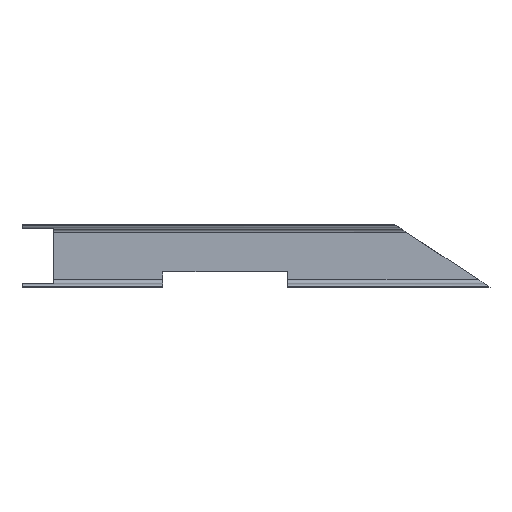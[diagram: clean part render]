
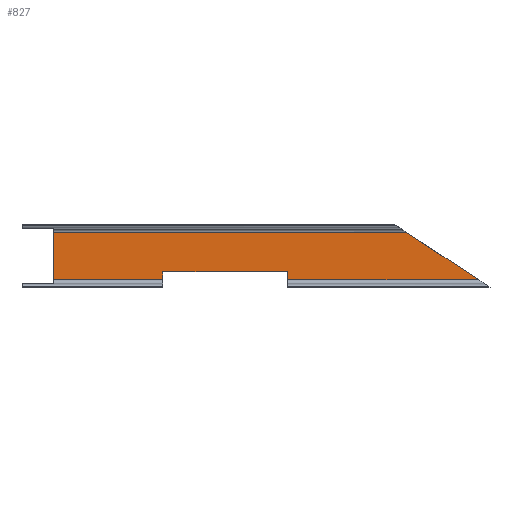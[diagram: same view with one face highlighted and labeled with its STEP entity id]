
A CAD part, front view. The second image highlights one B-rep face of the part: STEP entity #827.
In plain terms, the highlighted planar face has unit normal (0, -1, 0).
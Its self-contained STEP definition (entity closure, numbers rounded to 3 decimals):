
#72 = PLANE('',#73);
#73 = AXIS2_PLACEMENT_3D('',#74,#75,#76);
#74 = CARTESIAN_POINT('',(1500.,6000.,-200.));
#75 = DIRECTION('',(0.549,0.,0.836));
#76 = DIRECTION('',(0.,-1.,0.));
#126 = PLANE('',#127);
#127 = AXIS2_PLACEMENT_3D('',#128,#129,#130);
#128 = CARTESIAN_POINT('',(851.257,5960.,-150.));
#129 = DIRECTION('',(-1.,0.,0.));
#130 = DIRECTION('',(0.,0.,-1.));
#216 = EDGE_CURVE('',#217,#219,#221,.T.);
#217 = VERTEX_POINT('',#218);
#218 = CARTESIAN_POINT('',(851.257,6029.,-175.563));
#219 = VERTEX_POINT('',#220);
#220 = CARTESIAN_POINT('',(851.257,6029.,-150.));
#221 = SURFACE_CURVE('',#222,(#226,#233),.PCURVE_S1.);
#222 = LINE('',#223,#224);
#223 = CARTESIAN_POINT('',(851.257,6029.,-162.782));
#224 = VECTOR('',#225,1.);
#225 = DIRECTION('',(0.,0.,1.));
#226 = PCURVE('',#126,#227);
#227 = DEFINITIONAL_REPRESENTATION('',(#228),#232);
#228 = LINE('',#229,#230);
#229 = CARTESIAN_POINT('',(12.782,-69.));
#230 = VECTOR('',#231,1.);
#231 = DIRECTION('',(-1.,0.));
#232 = ( GEOMETRIC_REPRESENTATION_CONTEXT(2) 
PARAMETRIC_REPRESENTATION_CONTEXT() REPRESENTATION_CONTEXT('2D SPACE',''
  ) );
#233 = PCURVE('',#234,#239);
#234 = PLANE('',#235);
#235 = AXIS2_PLACEMENT_3D('',#236,#237,#238);
#236 = CARTESIAN_POINT('',(1501.524,6029.,
    -175.563));
#237 = DIRECTION('',(0.,1.,0.));
#238 = DIRECTION('',(0.,0.,1.));
#239 = DEFINITIONAL_REPRESENTATION('',(#240),#244);
#240 = LINE('',#241,#242);
#241 = CARTESIAN_POINT('',(12.782,-650.267));
#242 = VECTOR('',#243,1.);
#243 = DIRECTION('',(1.,0.));
#244 = ( GEOMETRIC_REPRESENTATION_CONTEXT(2) 
PARAMETRIC_REPRESENTATION_CONTEXT() REPRESENTATION_CONTEXT('2D SPACE',''
  ) );
#262 = PLANE('',#263);
#263 = AXIS2_PLACEMENT_3D('',#264,#265,#266);
#264 = CARTESIAN_POINT('',(451.257,5960.,-150.));
#265 = DIRECTION('',(0.,0.,-1.));
#266 = DIRECTION('',(1.,0.,0.));
#371 = CYLINDRICAL_SURFACE('',#372,11.5);
#372 = AXIS2_PLACEMENT_3D('',#373,#374,#375);
#373 = CARTESIAN_POINT('',(1501.524,6017.5,
    -175.563));
#374 = DIRECTION('',(1.,0.,0.));
#375 = DIRECTION('',(0.,1.,0.));
#453 = PLANE('',#454);
#454 = AXIS2_PLACEMENT_3D('',#455,#456,#457);
#455 = CARTESIAN_POINT('',(100.,6000.,-202.5));
#456 = DIRECTION('',(-1.,0.,0.));
#457 = DIRECTION('',(0.,1.,0.));
#509 = PLANE('',#510);
#510 = AXIS2_PLACEMENT_3D('',#511,#512,#513);
#511 = CARTESIAN_POINT('',(451.257,5960.,-250.));
#512 = DIRECTION('',(1.,0.,0.));
#513 = DIRECTION('',(0.,0.,1.));
#664 = VERTEX_POINT('',#665);
#665 = CARTESIAN_POINT('',(1232.488,6029.,
    -24.437));
#680 = CYLINDRICAL_SURFACE('',#681,11.5);
#681 = AXIS2_PLACEMENT_3D('',#682,#683,#684);
#682 = CARTESIAN_POINT('',(1501.524,6017.5,
    -24.437));
#683 = DIRECTION('',(1.,0.,0.));
#684 = DIRECTION('',(0.,1.,0.));
#698 = EDGE_CURVE('',#664,#699,#701,.T.);
#699 = VERTEX_POINT('',#700);
#700 = CARTESIAN_POINT('',(1462.765,6029.,
    -175.563));
#701 = SURFACE_CURVE('',#702,(#706,#713),.PCURVE_S1.);
#702 = LINE('',#703,#704);
#703 = CARTESIAN_POINT('',(1494.928,6029.,
    -196.671));
#704 = VECTOR('',#705,1.);
#705 = DIRECTION('',(0.836,0.,-0.549));
#706 = PCURVE('',#72,#707);
#707 = DEFINITIONAL_REPRESENTATION('',(#708),#712);
#708 = LINE('',#709,#710);
#709 = CARTESIAN_POINT('',(-29.,-6.067));
#710 = VECTOR('',#711,1.);
#711 = DIRECTION('',(0.,1.));
#712 = ( GEOMETRIC_REPRESENTATION_CONTEXT(2) 
PARAMETRIC_REPRESENTATION_CONTEXT() REPRESENTATION_CONTEXT('2D SPACE',''
  ) );
#713 = PCURVE('',#234,#714);
#714 = DEFINITIONAL_REPRESENTATION('',(#715),#719);
#715 = LINE('',#716,#717);
#716 = CARTESIAN_POINT('',(-21.108,-6.596));
#717 = VECTOR('',#718,1.);
#718 = DIRECTION('',(-0.549,0.836));
#719 = ( GEOMETRIC_REPRESENTATION_CONTEXT(2) 
PARAMETRIC_REPRESENTATION_CONTEXT() REPRESENTATION_CONTEXT('2D SPACE',''
  ) );
#827 = ADVANCED_FACE('',(#828),#234,.F.);
#828 = FACE_BOUND('',#829,.F.);
#829 = EDGE_LOOP('',(#830,#852,#853,#873,#874,#897,#920,#947));
#830 = ORIENTED_EDGE('',*,*,#831,.F.);
#831 = EDGE_CURVE('',#664,#832,#834,.T.);
#832 = VERTEX_POINT('',#833);
#833 = CARTESIAN_POINT('',(100.,6029.,-24.437));
#834 = SURFACE_CURVE('',#835,(#839,#846),.PCURVE_S1.);
#835 = LINE('',#836,#837);
#836 = CARTESIAN_POINT('',(1501.524,6029.,
    -24.437));
#837 = VECTOR('',#838,1.);
#838 = DIRECTION('',(-1.,0.,0.));
#839 = PCURVE('',#234,#840);
#840 = DEFINITIONAL_REPRESENTATION('',(#841),#845);
#841 = LINE('',#842,#843);
#842 = CARTESIAN_POINT('',(151.127,0.));
#843 = VECTOR('',#844,1.);
#844 = DIRECTION('',(0.,-1.));
#845 = ( GEOMETRIC_REPRESENTATION_CONTEXT(2) 
PARAMETRIC_REPRESENTATION_CONTEXT() REPRESENTATION_CONTEXT('2D SPACE',''
  ) );
#846 = PCURVE('',#680,#847);
#847 = DEFINITIONAL_REPRESENTATION('',(#848),#851);
#848 = B_SPLINE_CURVE_WITH_KNOTS('',1,(#849,#850),.UNSPECIFIED.,.F.,.F.,
  (2,2),(269.035,1401.524),.PIECEWISE_BEZIER_KNOTS.);
#849 = CARTESIAN_POINT('',(0.,-269.035));
#850 = CARTESIAN_POINT('',(0.,-1401.524));
#851 = ( GEOMETRIC_REPRESENTATION_CONTEXT(2) 
PARAMETRIC_REPRESENTATION_CONTEXT() REPRESENTATION_CONTEXT('2D SPACE',''
  ) );
#852 = ORIENTED_EDGE('',*,*,#698,.T.);
#853 = ORIENTED_EDGE('',*,*,#854,.T.);
#854 = EDGE_CURVE('',#699,#217,#855,.T.);
#855 = SURFACE_CURVE('',#856,(#860,#867),.PCURVE_S1.);
#856 = LINE('',#857,#858);
#857 = CARTESIAN_POINT('',(1501.524,6029.,
    -175.563));
#858 = VECTOR('',#859,1.);
#859 = DIRECTION('',(-1.,0.,0.));
#860 = PCURVE('',#234,#861);
#861 = DEFINITIONAL_REPRESENTATION('',(#862),#866);
#862 = LINE('',#863,#864);
#863 = CARTESIAN_POINT('',(0.,0.));
#864 = VECTOR('',#865,1.);
#865 = DIRECTION('',(0.,-1.));
#866 = ( GEOMETRIC_REPRESENTATION_CONTEXT(2) 
PARAMETRIC_REPRESENTATION_CONTEXT() REPRESENTATION_CONTEXT('2D SPACE',''
  ) );
#867 = PCURVE('',#371,#868);
#868 = DEFINITIONAL_REPRESENTATION('',(#869),#872);
#869 = B_SPLINE_CURVE_WITH_KNOTS('',1,(#870,#871),.UNSPECIFIED.,.F.,.F.,
  (2,2),(38.759,650.267),.PIECEWISE_BEZIER_KNOTS.);
#870 = CARTESIAN_POINT('',(6.283,-38.759));
#871 = CARTESIAN_POINT('',(6.283,-650.267));
#872 = ( GEOMETRIC_REPRESENTATION_CONTEXT(2) 
PARAMETRIC_REPRESENTATION_CONTEXT() REPRESENTATION_CONTEXT('2D SPACE',''
  ) );
#873 = ORIENTED_EDGE('',*,*,#216,.T.);
#874 = ORIENTED_EDGE('',*,*,#875,.T.);
#875 = EDGE_CURVE('',#219,#876,#878,.T.);
#876 = VERTEX_POINT('',#877);
#877 = CARTESIAN_POINT('',(451.257,6029.,-150.));
#878 = SURFACE_CURVE('',#879,(#883,#890),.PCURVE_S1.);
#879 = LINE('',#880,#881);
#880 = CARTESIAN_POINT('',(976.39,6029.,-150.));
#881 = VECTOR('',#882,1.);
#882 = DIRECTION('',(-1.,0.,0.));
#883 = PCURVE('',#234,#884);
#884 = DEFINITIONAL_REPRESENTATION('',(#885),#889);
#885 = LINE('',#886,#887);
#886 = CARTESIAN_POINT('',(25.563,-525.133));
#887 = VECTOR('',#888,1.);
#888 = DIRECTION('',(0.,-1.));
#889 = ( GEOMETRIC_REPRESENTATION_CONTEXT(2) 
PARAMETRIC_REPRESENTATION_CONTEXT() REPRESENTATION_CONTEXT('2D SPACE',''
  ) );
#890 = PCURVE('',#262,#891);
#891 = DEFINITIONAL_REPRESENTATION('',(#892),#896);
#892 = LINE('',#893,#894);
#893 = CARTESIAN_POINT('',(525.133,-69.));
#894 = VECTOR('',#895,1.);
#895 = DIRECTION('',(-1.,0.));
#896 = ( GEOMETRIC_REPRESENTATION_CONTEXT(2) 
PARAMETRIC_REPRESENTATION_CONTEXT() REPRESENTATION_CONTEXT('2D SPACE',''
  ) );
#897 = ORIENTED_EDGE('',*,*,#898,.T.);
#898 = EDGE_CURVE('',#876,#899,#901,.T.);
#899 = VERTEX_POINT('',#900);
#900 = CARTESIAN_POINT('',(451.257,6029.,-175.563));
#901 = SURFACE_CURVE('',#902,(#906,#913),.PCURVE_S1.);
#902 = LINE('',#903,#904);
#903 = CARTESIAN_POINT('',(451.257,6029.,-212.782));
#904 = VECTOR('',#905,1.);
#905 = DIRECTION('',(0.,0.,-1.));
#906 = PCURVE('',#234,#907);
#907 = DEFINITIONAL_REPRESENTATION('',(#908),#912);
#908 = LINE('',#909,#910);
#909 = CARTESIAN_POINT('',(-37.218,-1050.267));
#910 = VECTOR('',#911,1.);
#911 = DIRECTION('',(-1.,0.));
#912 = ( GEOMETRIC_REPRESENTATION_CONTEXT(2) 
PARAMETRIC_REPRESENTATION_CONTEXT() REPRESENTATION_CONTEXT('2D SPACE',''
  ) );
#913 = PCURVE('',#509,#914);
#914 = DEFINITIONAL_REPRESENTATION('',(#915),#919);
#915 = LINE('',#916,#917);
#916 = CARTESIAN_POINT('',(37.218,-69.));
#917 = VECTOR('',#918,1.);
#918 = DIRECTION('',(-1.,0.));
#919 = ( GEOMETRIC_REPRESENTATION_CONTEXT(2) 
PARAMETRIC_REPRESENTATION_CONTEXT() REPRESENTATION_CONTEXT('2D SPACE',''
  ) );
#920 = ORIENTED_EDGE('',*,*,#921,.T.);
#921 = EDGE_CURVE('',#899,#922,#924,.T.);
#922 = VERTEX_POINT('',#923);
#923 = CARTESIAN_POINT('',(100.,6029.,-175.563));
#924 = SURFACE_CURVE('',#925,(#929,#936),.PCURVE_S1.);
#925 = LINE('',#926,#927);
#926 = CARTESIAN_POINT('',(1501.524,6029.,
    -175.563));
#927 = VECTOR('',#928,1.);
#928 = DIRECTION('',(-1.,0.,0.));
#929 = PCURVE('',#234,#930);
#930 = DEFINITIONAL_REPRESENTATION('',(#931),#935);
#931 = LINE('',#932,#933);
#932 = CARTESIAN_POINT('',(0.,0.));
#933 = VECTOR('',#934,1.);
#934 = DIRECTION('',(0.,-1.));
#935 = ( GEOMETRIC_REPRESENTATION_CONTEXT(2) 
PARAMETRIC_REPRESENTATION_CONTEXT() REPRESENTATION_CONTEXT('2D SPACE',''
  ) );
#936 = PCURVE('',#937,#942);
#937 = CYLINDRICAL_SURFACE('',#938,11.5);
#938 = AXIS2_PLACEMENT_3D('',#939,#940,#941);
#939 = CARTESIAN_POINT('',(1501.524,6017.5,
    -175.563));
#940 = DIRECTION('',(1.,0.,0.));
#941 = DIRECTION('',(0.,1.,0.));
#942 = DEFINITIONAL_REPRESENTATION('',(#943),#946);
#943 = B_SPLINE_CURVE_WITH_KNOTS('',1,(#944,#945),.UNSPECIFIED.,.F.,.F.,
  (2,2),(1050.267,1401.524),
  .PIECEWISE_BEZIER_KNOTS.);
#944 = CARTESIAN_POINT('',(6.283,-1050.267));
#945 = CARTESIAN_POINT('',(6.283,-1401.524));
#946 = ( GEOMETRIC_REPRESENTATION_CONTEXT(2) 
PARAMETRIC_REPRESENTATION_CONTEXT() REPRESENTATION_CONTEXT('2D SPACE',''
  ) );
#947 = ORIENTED_EDGE('',*,*,#948,.T.);
#948 = EDGE_CURVE('',#922,#832,#949,.T.);
#949 = SURFACE_CURVE('',#950,(#954,#961),.PCURVE_S1.);
#950 = LINE('',#951,#952);
#951 = CARTESIAN_POINT('',(100.,6029.,-189.032));
#952 = VECTOR('',#953,1.);
#953 = DIRECTION('',(0.,0.,1.));
#954 = PCURVE('',#234,#955);
#955 = DEFINITIONAL_REPRESENTATION('',(#956),#960);
#956 = LINE('',#957,#958);
#957 = CARTESIAN_POINT('',(-13.468,-1401.524));
#958 = VECTOR('',#959,1.);
#959 = DIRECTION('',(1.,0.));
#960 = ( GEOMETRIC_REPRESENTATION_CONTEXT(2) 
PARAMETRIC_REPRESENTATION_CONTEXT() REPRESENTATION_CONTEXT('2D SPACE',''
  ) );
#961 = PCURVE('',#453,#962);
#962 = DEFINITIONAL_REPRESENTATION('',(#963),#967);
#963 = LINE('',#964,#965);
#964 = CARTESIAN_POINT('',(29.,-13.468));
#965 = VECTOR('',#966,1.);
#966 = DIRECTION('',(0.,-1.));
#967 = ( GEOMETRIC_REPRESENTATION_CONTEXT(2) 
PARAMETRIC_REPRESENTATION_CONTEXT() REPRESENTATION_CONTEXT('2D SPACE',''
  ) );
